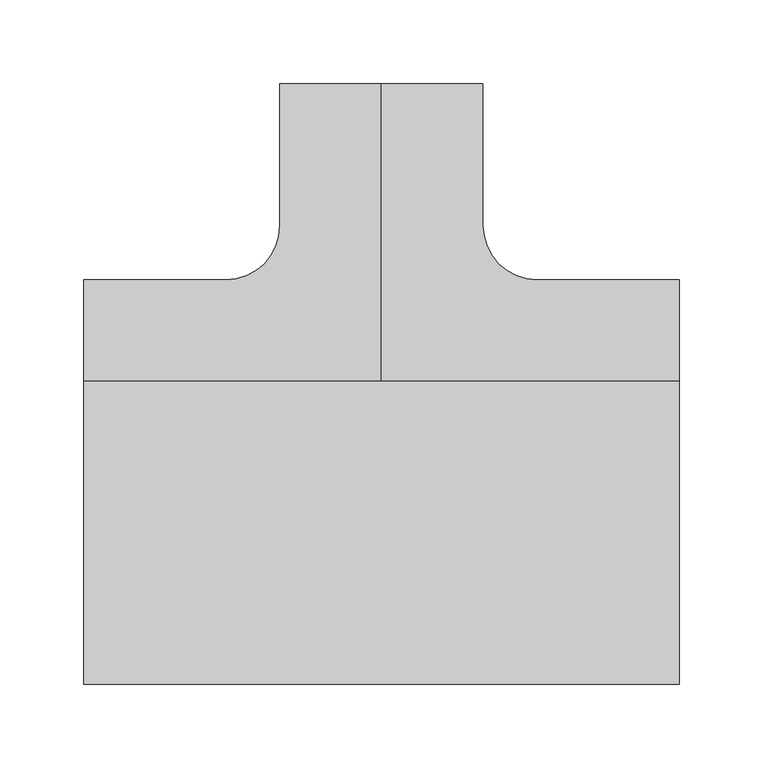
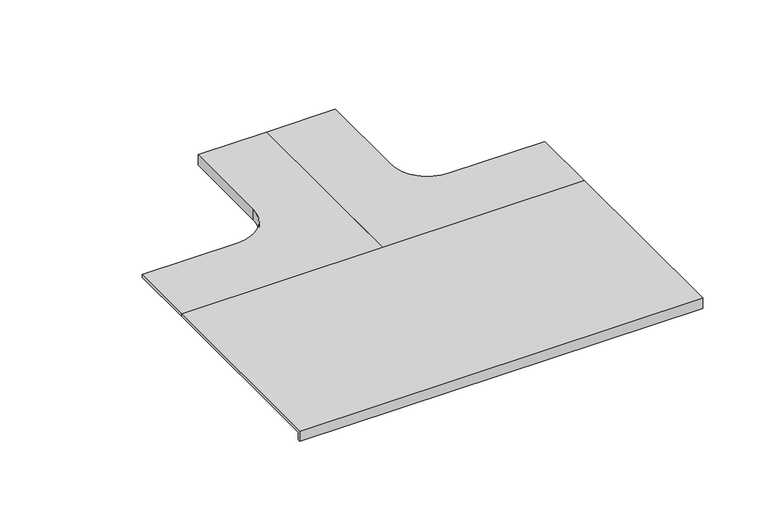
"""IFC4 building model written with IfcOpenShell, lengths in millimetres: cable carrier fitting geometry, CCT_Hyperline_FBTR-240-HTC120-CVR Крышка на горизонтальный тройник 240-120-240 для оптического лотка : Крышка на горизонтальный тройник 240-120-240 для оптического лотка."""

from ifc_helpers import new_model, si_unit, frame, origin, place, context, project, spatial, polyline, circle_curve, outline, extrude, source, transform, mapped, element, save
from ifc_brep_helpers import plane_surface, cylinder_surface, revolved_surface, advanced_brep


def cable_carrier_fitting_f8632dee(model_context):
    return source(origin(), model_context, "Body", "SolidModel", [
        extrude(outline(polyline([(-180.54, 52.54), (0.0, 52.54), (0.0, 50.0), (-178.0, 50.0), (-178.0, 43.0), (-180.54, 43.0), (-180.54, 52.54)])), frame((-177.5, 0.0, 0.0), z_axis=(1.0, 0.0, 0.0), x_axis=(0.0, 1.0, 0.0)), (0.0, 0.0, 1.0), 355.0),
        advanced_brep(
        [(177.5, 60.54, 52.54), (177.5, 0.0, 52.54), (177.5, 0.0, 50.0), (177.5, 60.54, 50.0), (93.0, 58.0, 50.0), (93.0, 58.0, 43.0), (157.5, 58.0, 43.0), (157.5, 58.0, 50.0), (58.0, 93.0, 43.0), (58.0, 177.5, 43.0), (60.54, 177.5, 43.0), (60.54, 93.0, 43.0), (93.0, 60.54, 43.0), (157.5, 60.54, 43.0), (93.0, 60.54, 52.54), (157.5, 60.54, 50.0), (58.0, 93.0, 50.0), (60.54, 93.0, 52.54), (0.0, 177.5, 52.54), (60.54, 177.5, 52.54), (58.0, 177.5, 50.0), (0.0, 177.5, 50.0), (0.0, 0.0, 52.54), (0.0, 0.0, 50.0)],
        [
            (0, 1),
            (1, 2),
            (2, 3),
            (3, 0),
            (4, 5),
            (5, 6),
            (6, 7),
            (7, 4),
            (5, 8, circle_curve(frame((93.0, 93.0, 43.0), z_axis=(0.0, 0.0, -1.0), x_axis=(0.0, -1.0, 0.0)), 35.0)),
            (8, 9),
            (9, 10),
            (10, 11),
            (11, 12, circle_curve(frame((93.0, 93.0, 43.0), z_axis=(0.0, 0.0, 1.0), x_axis=(0.0, -1.0, 0.0)), 32.46)),
            (12, 13),
            (13, 6),
            (14, 0),
            (3, 15),
            (15, 13),
            (12, 14),
            (4, 16, circle_curve(frame((93.0, 93.0, 50.0), z_axis=(0.0, 0.0, -1.0), x_axis=(0.0, -1.0, 0.0)), 35.0)),
            (16, 8),
            (17, 14, circle_curve(frame((93.0, 93.0, 52.54), z_axis=(0.0, 0.0, 1.0), x_axis=(0.0, -1.0, 0.0)), 32.46)),
            (11, 17),
            (18, 19),
            (19, 10),
            (9, 20),
            (20, 21),
            (21, 18),
            (16, 20),
            (19, 17),
            (18, 22),
            (22, 1),
            (22, 23),
            (23, 2),
            (23, 21),
            (7, 15),
        ],
        [
            plane_surface(frame((177.5, 58.0, 25.0), z_axis=(1.0, 0.0, 0.0), x_axis=(0.0, 0.0, 1.0))),
            plane_surface(frame((177.5, 58.0, 50.0), z_axis=(0.0, -1.0, 0.0), x_axis=(-1.0, 0.0, 0.0))),
            plane_surface(frame((177.5, 58.0, 43.0), z_axis=(0.0, 0.0, -1.0), x_axis=(-1.0, 0.0, 0.0))),
            plane_surface(frame((177.5, 60.54, 43.0), z_axis=(0.0, 1.0, 0.0), x_axis=(-1.0, 0.0, 0.0))),
            cylinder_surface(frame((93.0, 93.0, 25.0), z_axis=(0.0, 0.0, -1.0), x_axis=(0.0, -1.0, 0.0)), 35.0),
            revolved_surface(polyline([(93.0, 60.54, 43.0), (93.0, 60.54, 52.54)]), (93.0, 93.0, 25.0), (0.0, 0.0, -1.0)),
            plane_surface(frame((58.0, 177.5, 25.0), z_axis=(0.0, 1.0, 0.0), x_axis=(0.0, 0.0, 1.0))),
            plane_surface(frame((58.0, 93.0, 50.0), z_axis=(-1.0, 0.0, 0.0), x_axis=(0.0, 1.0, 0.0))),
            plane_surface(frame((60.54, 93.0, 43.0), z_axis=(1.0, 0.0, 0.0), x_axis=(0.0, 1.0, 0.0))),
            plane_surface(frame((177.5, 60.54, 52.54), z_axis=(0.0, 0.0, 1.0), x_axis=(-1.0, 0.0, 0.0))),
            plane_surface(frame((177.5, 0.0, 52.54), z_axis=(0.0, -1.0, 0.0), x_axis=(-1.0, 0.0, 0.0))),
            plane_surface(frame((177.5, 0.0, 50.0), z_axis=(0.0, 0.0, -1.0), x_axis=(-1.0, 0.0, 0.0))),
            plane_surface(frame((0.0, 93.0, 52.54), z_axis=(-1.0, 0.0, 0.0), x_axis=(0.0, 1.0, 0.0))),
            plane_surface(frame((157.5, 60.54, 43.0), z_axis=(1.0, 0.0, 0.0), x_axis=(0.0, -1.0, 0.0))),
        ],
        [
            (0, [[1, 2, 3, 4]]),
            (1, [[5, 6, 7, 8]]),
            (2, [[9, 10, 11, 12, 13, 14, 15, -6]]),
            (3, [[16, -4, 17, 18, -14, 19]]),
            (4, [[20, 21, -9, -5]]),
            (5, [[22, -19, -13, 23]]),
            (6, [[24, 25, -11, 26, 27, 28]]),
            (7, [[29, -26, -10, -21]]),
            (8, [[30, -23, -12, -25]]),
            (9, [[-1, -16, -22, -30, -24, 31, 32]]),
            (10, [[-2, -32, 33, 34]]),
            (11, [[-34, 35, -27, -29, -20, -8, 36, -17, -3]]),
            (12, [[-31, -28, -35, -33]]),
            (13, [[-36, -7, -15, -18]]),
        ],
    ),
        advanced_brep(
        [(-177.5, 60.54, 52.54), (-177.5, 60.54, 50.0), (-177.5, 0.0, 50.0), (-177.5, 0.0, 52.54), (-93.0, 58.0, 50.0), (-157.5, 58.0, 50.0), (-157.5, 58.0, 43.0), (-93.0, 58.0, 43.0), (-157.5, 60.54, 43.0), (-93.0, 60.54, 43.0), (-60.54, 93.0, 43.0), (-60.54, 177.5, 43.0), (-58.0, 177.5, 43.0), (-58.0, 93.0, 43.0), (-93.0, 60.54, 52.54), (-157.5, 60.54, 50.0), (-58.0, 93.0, 50.0), (-60.54, 93.0, 52.54), (0.0, 177.5, 52.54), (0.0, 177.5, 50.0), (-58.0, 177.5, 50.0), (-60.54, 177.5, 52.54), (0.0, 0.0, 52.54), (0.0, 0.0, 50.0)],
        [
            (0, 1),
            (1, 2),
            (2, 3),
            (3, 0),
            (4, 5),
            (5, 6),
            (6, 7),
            (7, 4),
            (6, 8),
            (8, 9),
            (9, 10, circle_curve(frame((-93.0, 93.0, 43.0), z_axis=(0.0, 0.0, 1.0), x_axis=(0.0, -1.0, 0.0)), 32.46)),
            (10, 11),
            (11, 12),
            (12, 13),
            (13, 7, circle_curve(frame((-93.0, 93.0, 43.0), z_axis=(0.0, 0.0, -1.0), x_axis=(0.0, -1.0, 0.0)), 35.0)),
            (14, 9),
            (8, 15),
            (15, 1),
            (0, 14),
            (13, 16),
            (16, 4, circle_curve(frame((-93.0, 93.0, 50.0), z_axis=(0.0, 0.0, -1.0), x_axis=(0.0, -1.0, 0.0)), 35.0)),
            (17, 10),
            (14, 17, circle_curve(frame((-93.0, 93.0, 52.54), z_axis=(0.0, 0.0, 1.0), x_axis=(0.0, -1.0, 0.0)), 32.46)),
            (18, 19),
            (19, 20),
            (20, 12),
            (11, 21),
            (21, 18),
            (20, 16),
            (17, 21),
            (3, 22),
            (22, 18),
            (2, 23),
            (23, 22),
            (15, 5),
            (19, 23),
        ],
        [
            plane_surface(frame((-177.5, 58.0, 25.0), z_axis=(-1.0, 0.0, 0.0), x_axis=(0.0, 0.0, 1.0))),
            plane_surface(frame((-177.5, 58.0, 50.0), z_axis=(0.0, -1.0, 0.0), x_axis=(1.0, 0.0, 0.0))),
            plane_surface(frame((-177.5, 58.0, 43.0), z_axis=(0.0, 0.0, -1.0), x_axis=(1.0, 0.0, 0.0))),
            plane_surface(frame((-177.5, 60.54, 43.0), z_axis=(0.0, 1.0, 0.0), x_axis=(1.0, 0.0, 0.0))),
            cylinder_surface(frame((-93.0, 93.0, 25.0), z_axis=(0.0, 0.0, -1.0), x_axis=(0.0, -1.0, 0.0)), 35.0),
            revolved_surface(polyline([(-93.0, 60.54, 43.0), (-93.0, 60.54, 52.54)]), (-93.0, 93.0, 25.0), (0.0, 0.0, -1.0)),
            plane_surface(frame((-58.0, 177.5, 25.0), z_axis=(0.0, 1.0, 0.0), x_axis=(0.0, 0.0, 1.0))),
            plane_surface(frame((-58.0, 93.0, 50.0), z_axis=(1.0, 0.0, 0.0), x_axis=(0.0, 1.0, 0.0))),
            plane_surface(frame((-60.54, 93.0, 43.0), z_axis=(-1.0, 0.0, 0.0), x_axis=(0.0, 1.0, 0.0))),
            plane_surface(frame((-177.5, 60.54, 52.54), z_axis=(0.0, 0.0, 1.0), x_axis=(1.0, 0.0, 0.0))),
            plane_surface(frame((-177.5, 0.0, 52.54), z_axis=(0.0, -1.0, 0.0), x_axis=(1.0, 0.0, 0.0))),
            plane_surface(frame((-177.5, 0.0, 50.0), z_axis=(0.0, 0.0, -1.0), x_axis=(1.0, 0.0, 0.0))),
            plane_surface(frame((0.0, 93.0, 52.54), z_axis=(1.0, 0.0, 0.0), x_axis=(0.0, 1.0, 0.0))),
            plane_surface(frame((-157.5, 60.54, 43.0), z_axis=(-1.0, 0.0, 0.0), x_axis=(0.0, -1.0, 0.0))),
        ],
        [
            (0, [[1, 2, 3, 4]]),
            (1, [[5, 6, 7, 8]]),
            (2, [[-7, 9, 10, 11, 12, 13, 14, 15]]),
            (3, [[16, -10, 17, 18, -1, 19]]),
            (4, [[-8, -15, 20, 21]]),
            (5, [[22, -11, -16, 23]]),
            (6, [[24, 25, 26, -13, 27, 28]]),
            (7, [[-20, -14, -26, 29]]),
            (8, [[-27, -12, -22, 30]]),
            (9, [[31, 32, -28, -30, -23, -19, -4]]),
            (10, [[33, 34, -31, -3]]),
            (11, [[-2, -18, 35, -5, -21, -29, -25, 36, -33]]),
            (12, [[-34, -36, -24, -32]]),
            (13, [[-17, -9, -6, -35]]),
        ],
    ),
    ])


if __name__ == "__main__":
    model = new_model("IFC4")
    model_context = context("Model", 3, world=origin())
    ifc_project = project(units=[si_unit("LENGTHUNIT", "METRE", prefix="MILLI")], contexts=[model_context])
    site = spatial("IfcSite", under=ifc_project)
    building = spatial("IfcBuilding", under=site)
    placement = place(None, origin())
    cable_carrier_fitting_shape = cable_carrier_fitting_f8632dee(model_context)
    element("IfcCableCarrierFitting", 1, ObjectType="CCT_Hyperline_FBTR-240-HTC120-CVR Крышка на горизонтальный тройник 240-120-240 для оптического лотка : Крышка на горизонтальный тройник 240-120-240 для оптического лотка", at=placement, inside=building, context=model_context, shape_type="MappedRepresentation", body=[
        mapped(cable_carrier_fitting_shape, transform((0.0, 0.0, 0.0), x_axis=(1.0, 0.0, 0.0), y_axis=(0.0, 1.0, 0.0), z_axis=(0.0, 0.0, 1.0))),
    ])
    save(model, "model.ifc")
